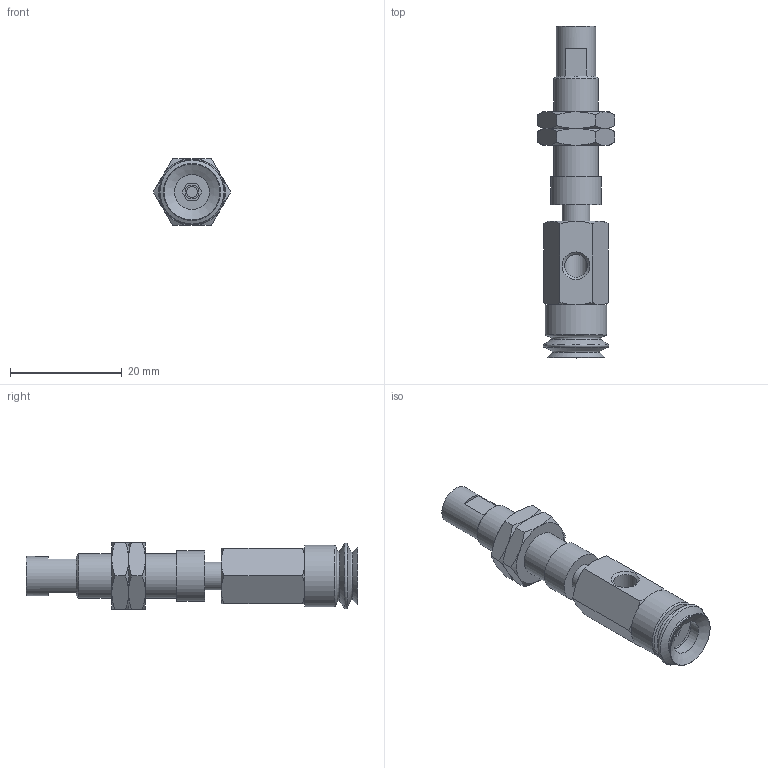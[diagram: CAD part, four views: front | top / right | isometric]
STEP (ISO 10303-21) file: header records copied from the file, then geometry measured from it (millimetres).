
FILE_DESCRIPTION(('STEP AP203'),'1');
FILE_NAME('.stp','2025-04-24T00:32:42',(' '),(' '),'Spatial InterOp 3D',' ',' ');
FILE_SCHEMA(('CONFIG_CONTROL_DESIGN'));
Length unit declared in the file: millimetre
Products named in the file (7): BNABPJYS-10-3-※; Adapter-10-NAPJ; CONNECTOR_S-10-3; NUT-NAPJ-10-3-s; NAPJTS-10-3-FBODY; NAPJTS-10-3-MBODY; BPJG-10-※
Assembly tree (7 placements, depth 2):
  BNABPJYS-10-3-※
    Adapter-10-NAPJ
    CONNECTOR_S-10-3
    NUT-NAPJ-10-3-s  x2
    NAPJTS-10-3-FBODY
    NAPJTS-10-3-MBODY
    BPJG-10-※
Bounding box: 13.86 x 59.5 x 12 mm (x, y, z)
Volume: 3821.6 mm3; surface area: 4622.4 mm2
Topology: 7 solids, 7 shells, 136 faces, 287 edges, 174 vertices
Faces by surface type: plane 57, cone 53, cylinder 19, torus 7
Full cylindrical faces by diameter (mm): 2 x1, 2.5 x1, 4.134 x3, 4.6 x1, 5 x4, 6.266 x1, 7 x1, 7.188 x2, 7.8 x1, 8 x2, 9 x1, 11 x1
Entity records: 3286 total; most frequent: CARTESIAN_POINT 735, DIRECTION 468, ORIENTED_EDGE 378, AXIS2_PLACEMENT_3D 206, EDGE_CURVE 189, EDGE_LOOP 174, FACE_OUTER_BOUND 138, VERTEX_POINT 137
